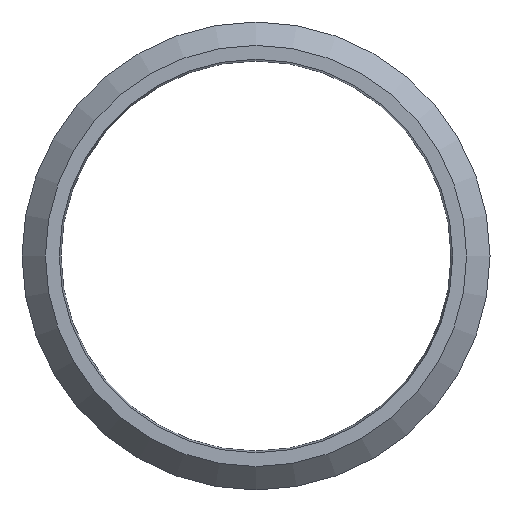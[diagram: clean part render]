
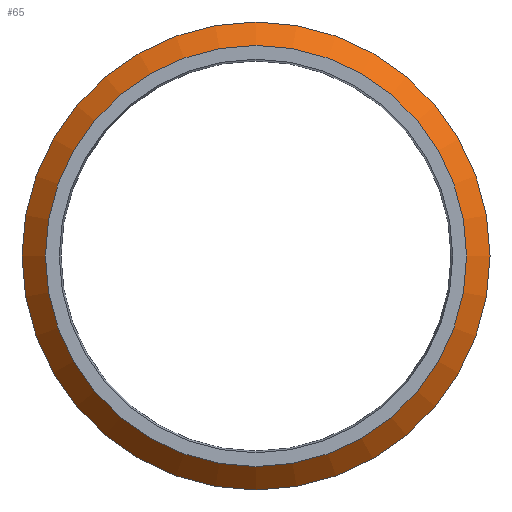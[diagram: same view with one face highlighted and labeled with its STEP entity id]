
A CAD part, left-side view. The second image highlights one B-rep face of the part: STEP entity #65.
In plain terms, the highlighted conical face has half-angle 45 degrees and reference radius 17.1 mm.
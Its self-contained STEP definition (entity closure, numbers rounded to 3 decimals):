
#65 = ADVANCED_FACE( '', ( #138, #139 ), #140, .T. );
#138 = FACE_BOUND( '', #239, .T. );
#139 = FACE_OUTER_BOUND( '', #240, .T. );
#140 = CONICAL_SURFACE( '', #241, 17.1, 0.785 );
#239 = EDGE_LOOP( '', ( #323 ) );
#240 = EDGE_LOOP( '', ( #324 ) );
#241 = AXIS2_PLACEMENT_3D( '', #325, #326, #327 );
#323 = ORIENTED_EDGE( '', *, *, #361, .T. );
#324 = ORIENTED_EDGE( '', *, *, #358, .T. );
#325 = CARTESIAN_POINT( '', ( -7.425, -10.882, 0. ) );
#326 = DIRECTION( '', ( 1., 0., 0. ) );
#327 = DIRECTION( '', ( 0., -1., 0. ) );
#358 = EDGE_CURVE( '', #401, #401, #402, .T. );
#361 = EDGE_CURVE( '', #405, #405, #406, .T. );
#401 = VERTEX_POINT( '', #446 );
#402 = CIRCLE( '', #447, 18. );
#405 = VERTEX_POINT( '', #450 );
#406 = CIRCLE( '', #451, 16.2 );
#446 = CARTESIAN_POINT( '', ( -6.525, -28.882, 0. ) );
#447 = AXIS2_PLACEMENT_3D( '', #493, #494, #495 );
#450 = CARTESIAN_POINT( '', ( -8.325, -27.082, 0. ) );
#451 = AXIS2_PLACEMENT_3D( '', #496, #497, #498 );
#493 = CARTESIAN_POINT( '', ( -6.525, -10.882, 0. ) );
#494 = DIRECTION( '', ( -1., 0., 0. ) );
#495 = DIRECTION( '', ( 0., -1., 0. ) );
#496 = CARTESIAN_POINT( '', ( -8.325, -10.882, 0. ) );
#497 = DIRECTION( '', ( 1., 0., 0. ) );
#498 = DIRECTION( '', ( 0., -1., 0. ) );
